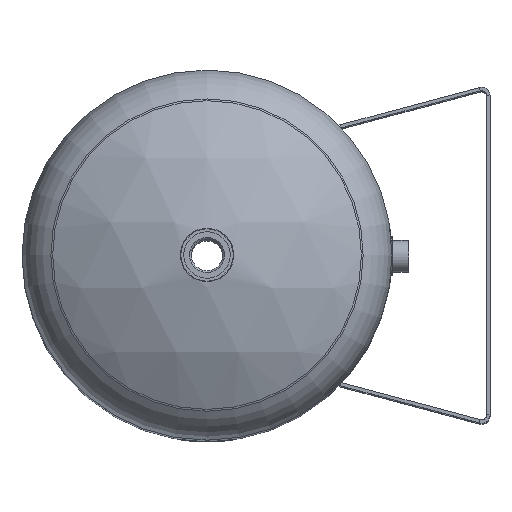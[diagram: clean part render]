
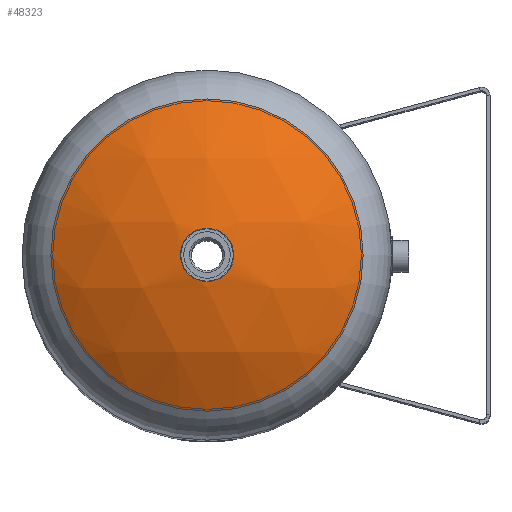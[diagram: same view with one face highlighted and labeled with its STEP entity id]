
A CAD part, top view. The second image highlights one B-rep face of the part: STEP entity #48323.
In plain terms, the highlighted spherical face has radius 177.28 mm.
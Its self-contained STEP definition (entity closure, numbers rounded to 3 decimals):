
#1697=SPHERICAL_SURFACE('',#51333,177.28);
#1935=FACE_BOUND('',#6865,.T.);
#3131=CIRCLE('',#51323,15.75);
#3136=CIRCLE('',#51331,92.447);
#4020=FACE_OUTER_BOUND('',#6864,.T.);
#6864=EDGE_LOOP('',(#32842));
#6865=EDGE_LOOP('',(#32843));
#20141=VERTEX_POINT('',#61251);
#20146=VERTEX_POINT('',#61266);
#25210=EDGE_CURVE('',#20141,#20141,#3131,.T.);
#25216=EDGE_CURVE('',#20146,#20146,#3136,.T.);
#32842=ORIENTED_EDGE('',*,*,#25216,.T.);
#32843=ORIENTED_EDGE('',*,*,#25210,.T.);
#48323=ADVANCED_FACE('',(#4020,#1935),#1697,.T.);
#51323=AXIS2_PLACEMENT_3D('',#61253,#53477,#53478);
#51331=AXIS2_PLACEMENT_3D('',#61267,#53494,#53495);
#51333=AXIS2_PLACEMENT_3D('',#61269,#53498,#53499);
#53477=DIRECTION('center_axis',(0.,-1.,0.));
#53478=DIRECTION('ref_axis',(1.,0.,0.));
#53494=DIRECTION('center_axis',(0.,1.,0.));
#53495=DIRECTION('ref_axis',(1.,0.,0.));
#53498=DIRECTION('center_axis',(0.,0.,1.));
#53499=DIRECTION('ref_axis',(1.,0.,0.));
#61251=CARTESIAN_POINT('',(-15.75,176.579,0.));
#61253=CARTESIAN_POINT('Origin',(0.,176.579,0.));
#61266=CARTESIAN_POINT('',(0.,151.267,-92.447));
#61267=CARTESIAN_POINT('Origin',(0.,151.267,0.));
#61269=CARTESIAN_POINT('Origin',(0.,0.,0.));
